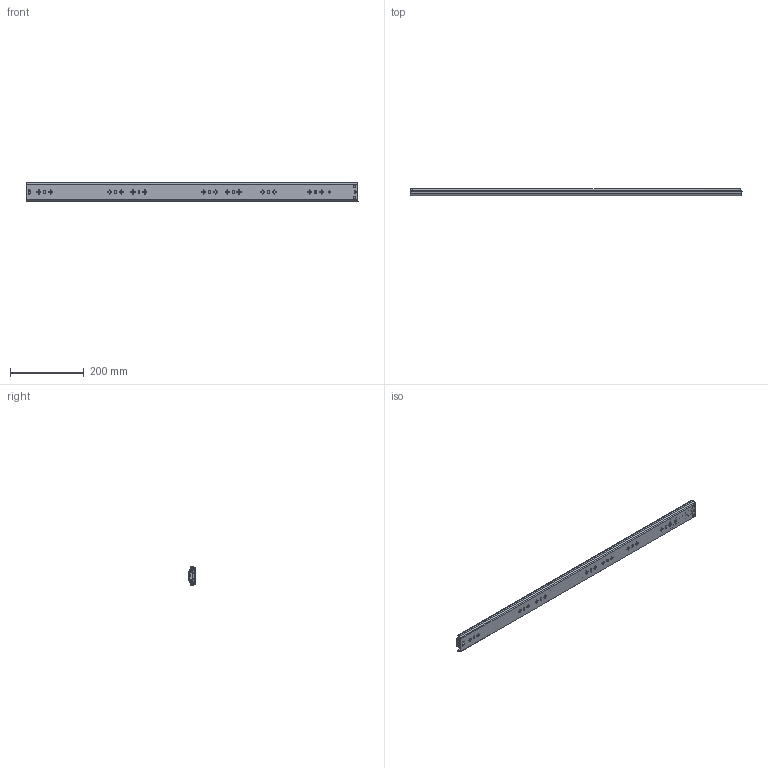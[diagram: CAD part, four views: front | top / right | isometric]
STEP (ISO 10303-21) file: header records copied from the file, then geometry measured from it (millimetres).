
FILE_DESCRIPTION((''),'2;1');
FILE_NAME('1053-HD-900_ASM','2023-11-18T',('jishu015'),(''),'PRO/ENGINEER BY PARAMETRIC TECHNOLOGY CORPORATION, 2010280','PRO/ENGINEER BY PARAMETRIC TECHNOLOGY CORPORATION, 2010280','');
FILE_SCHEMA(('CONFIG_CONTROL_DESIGN'));
Products named in the file (25): 1053-02-18WAIKE11_; MANIFOLD_SOLID_BREP_512_; MANIFOLD_SOLID_BREP_5212_; MANIFOLD_SOLID_BREP_5312_; ADMI29141B9BC7PD_ASM____________ASM; ASM0001____________ASM; 53_ASM____________ASM; 1053-02-18XTPJG-DAZHUJIA2___; 1053-02-18XTPJG-5-6GANZHU12___; ZHONGGUIJIAO-11_____________; 1053-02-18XTPJG-DAZHUJIA12____ASM; 1053-02-18WAIKE11__ASM; 1053-02-18ZHONGGUI11____; 53ZHIDIJIAO12_; 3X6-MAODING___________; 1053-02-18ZHONGGUI11_____ASM; 1053XIAOZHUJIA-14GE11_____; 53-5-6GANZHU12_; 1053XIAOZHUJIA-14GE11______ASM; 1053-02-18NEIGUI12__; 53BACHA12_; XIAOMAODING___________; 3X4MAODING___________; 1053-02-18NEIGUI12___ASM; 1053-HD-900_ASM
Assembly tree (139 placements, depth 6):
  1053-HD-900_ASM
    1053-02-18WAIKE11__ASM
      1053-02-18WAIKE11_
      53_ASM____________ASM
        ASM0001____________ASM
          ADMI29141B9BC7PD_ASM____________ASM
            MANIFOLD_SOLID_BREP_512_
            MANIFOLD_SOLID_BREP_5212_
            MANIFOLD_SOLID_BREP_5312_
      1053-02-18XTPJG-DAZHUJIA12____ASM
        1053-02-18XTPJG-DAZHUJIA2___
        1053-02-18XTPJG-5-6GANZHU12___  x56
        ZHONGGUIJIAO-11_____________  x2
    1053-02-18ZHONGGUI11_____ASM
      1053-02-18ZHONGGUI11____
      53ZHIDIJIAO12_
      3X6-MAODING___________
    1053XIAOZHUJIA-14GE11______ASM
      1053XIAOZHUJIA-14GE11_____
      53-5-6GANZHU12_  x60
    1053-02-18NEIGUI12___ASM
      1053-02-18NEIGUI12__
      53BACHA12_
      XIAOMAODING___________
      3X4MAODING___________
Bounding box: 902.1 x 19.75 x 53 mm (x, y, z)
Volume: 342087.1 mm3; surface area: 422100.4 mm2
Topology: 131 solids, 131 shells, 4630 faces, 12929 edges, 8072 vertices
Faces by surface type: plane 2021, cylinder 1884, sphere 262, bspline 254, cone 147, torus 60, extrusion 2
Entity records: 162356 total; most frequent: CARTESIAN_POINT 50109, ORIENTED_EDGE 23988, DIRECTION 22691, EDGE_CURVE 11994, AXIS2_PLACEMENT_3D 7741, VERTEX_POINT 7718, VECTOR 7209, LINE 7207
